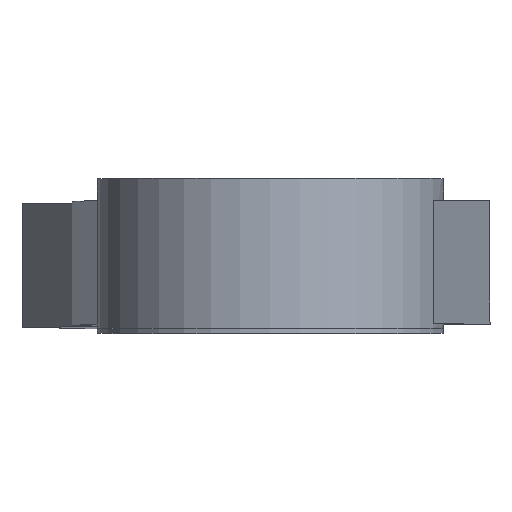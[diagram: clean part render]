
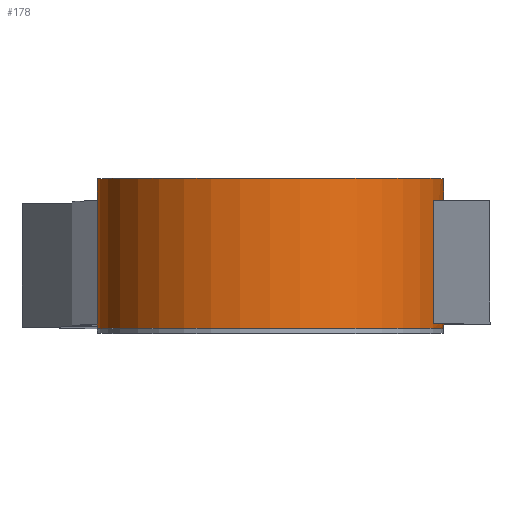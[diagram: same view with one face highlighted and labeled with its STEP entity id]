
A CAD part, top view. The second image highlights one B-rep face of the part: STEP entity #178.
In plain terms, the highlighted cylindrical face has radius 56 mm (diameter 112 mm), a partial arc.
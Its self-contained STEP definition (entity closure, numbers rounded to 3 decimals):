
#6 = VERTEX_POINT ( 'NONE', #1016 ) ;
#21 = CARTESIAN_POINT ( 'NONE',  ( -156., -78.5, 1570. ) ) ;
#54 = ORIENTED_EDGE ( 'NONE', *, *, #623, .T. ) ;
#73 = ORIENTED_EDGE ( 'NONE', *, *, #238, .T. ) ;
#79 = CIRCLE ( 'NONE', #652, 56. ) ;
#81 = VERTEX_POINT ( 'NONE', #983 ) ;
#86 = CIRCLE ( 'NONE', #662, 56. ) ;
#93 = CIRCLE ( 'NONE', #637, 56. ) ;
#94 = VECTOR ( 'NONE', #376, 1000. ) ;
#102 = LINE ( 'NONE', #383, #94 ) ;
#110 = EDGE_CURVE ( 'NONE', #765, #81, #1059, .T. ) ;
#122 = ORIENTED_EDGE ( 'NONE', *, *, #1050, .T. ) ;
#136 = EDGE_CURVE ( 'NONE', #311, #6, #223, .T. ) ;
#164 = ORIENTED_EDGE ( 'NONE', *, *, #955, .F. ) ;
#178 = ADVANCED_FACE ( 'NONE', ( #470 ), #504, .T. ) ;
#205 = DIRECTION ( 'NONE',  ( -1., 0., 0. ) ) ;
#210 = DIRECTION ( 'NONE',  ( 0., 1., 0. ) ) ;
#211 = CIRCLE ( 'NONE', #703, 56. ) ;
#213 = CARTESIAN_POINT ( 'NONE',  ( -100., -78.5, 1570. ) ) ;
#223 = LINE ( 'NONE', #929, #440 ) ;
#238 = EDGE_CURVE ( 'NONE', #781, #746, #707, .T. ) ;
#258 = CIRCLE ( 'NONE', #706, 56. ) ;
#289 = VECTOR ( 'NONE', #563, 1000. ) ;
#309 = DIRECTION ( 'NONE',  ( -1., 0., 0. ) ) ;
#311 = VERTEX_POINT ( 'NONE', #21 ) ;
#314 = DIRECTION ( 'NONE',  ( 0., -1., 0. ) ) ;
#317 = CARTESIAN_POINT ( 'NONE',  ( -100., -77., 1570. ) ) ;
#318 = LINE ( 'NONE', #567, #289 ) ;
#322 = DIRECTION ( 'NONE',  ( -1., 0., 0. ) ) ;
#324 = DIRECTION ( 'NONE',  ( 0., 1., 0. ) ) ;
#326 = CARTESIAN_POINT ( 'NONE',  ( -100., -37., 1570. ) ) ;
#357 = ORIENTED_EDGE ( 'NONE', *, *, #511, .T. ) ;
#371 = VECTOR ( 'NONE', #676, 1000. ) ;
#372 = LINE ( 'NONE', #691, #371 ) ;
#373 = LINE ( 'NONE', #673, #385 ) ;
#376 = DIRECTION ( 'NONE',  ( 0., 1., 0. ) ) ;
#377 = CARTESIAN_POINT ( 'NONE',  ( -155.973, -77., 1571.753 ) ) ;
#382 = VERTEX_POINT ( 'NONE', #786 ) ;
#383 = CARTESIAN_POINT ( 'NONE',  ( -156., -77., 1570. ) ) ;
#385 = VECTOR ( 'NONE', #699, 1000. ) ;
#396 = CARTESIAN_POINT ( 'NONE',  ( -155.973, -37., 1571.753 ) ) ;
#413 = CARTESIAN_POINT ( 'NONE',  ( -44., -37., 1570. ) ) ;
#440 = VECTOR ( 'NONE', #931, 1000. ) ;
#450 = VECTOR ( 'NONE', #994, 1000. ) ;
#470 = FACE_OUTER_BOUND ( 'NONE', #868, .T. ) ;
#472 = DIRECTION ( 'NONE',  ( -1., 0., 0. ) ) ;
#473 = DIRECTION ( 'NONE',  ( 0., -1., 0. ) ) ;
#474 = CARTESIAN_POINT ( 'NONE',  ( -100., -77., 1570. ) ) ;
#479 = CARTESIAN_POINT ( 'NONE',  ( -156., -37., 1570. ) ) ;
#481 = CARTESIAN_POINT ( 'NONE',  ( -44., -30., 1570. ) ) ;
#502 = CARTESIAN_POINT ( 'NONE',  ( -100., -30., 1570. ) ) ;
#504 = CYLINDRICAL_SURFACE ( 'NONE', #878, 56. ) ;
#506 = CARTESIAN_POINT ( 'NONE',  ( -44., -78.5, 1570. ) ) ;
#507 = DIRECTION ( 'NONE',  ( -1., 0., 0. ) ) ;
#511 = EDGE_CURVE ( 'NONE', #912, #991, #372, .T. ) ;
#514 = EDGE_CURVE ( 'NONE', #894, #781, #373, .T. ) ;
#517 = DIRECTION ( 'NONE',  ( 0., -1., 0. ) ) ;
#518 = DIRECTION ( 'NONE',  ( -1., 0., 0. ) ) ;
#519 = DIRECTION ( 'NONE',  ( 0., 1., 0. ) ) ;
#522 = CARTESIAN_POINT ( 'NONE',  ( -100., -37., 1570. ) ) ;
#524 = CARTESIAN_POINT ( 'NONE',  ( -47.298, -37., 1588.933 ) ) ;
#534 = CARTESIAN_POINT ( 'NONE',  ( -156., -30., 1570. ) ) ;
#563 = DIRECTION ( 'NONE',  ( 0., 1., 0. ) ) ;
#567 = CARTESIAN_POINT ( 'NONE',  ( -47.298, -77., 1588.933 ) ) ;
#581 = ORIENTED_EDGE ( 'NONE', *, *, #1005, .T. ) ;
#583 = ORIENTED_EDGE ( 'NONE', *, *, #710, .T. ) ;
#623 = EDGE_CURVE ( 'NONE', #382, #730, #318, .T. ) ;
#637 = AXIS2_PLACEMENT_3D ( 'NONE', #213, #210, #205 ) ;
#652 = AXIS2_PLACEMENT_3D ( 'NONE', #317, #314, #309 ) ;
#653 = ORIENTED_EDGE ( 'NONE', *, *, #110, .T. ) ;
#662 = AXIS2_PLACEMENT_3D ( 'NONE', #326, #324, #322 ) ;
#673 = CARTESIAN_POINT ( 'NONE',  ( -44., -77., 1570. ) ) ;
#676 = DIRECTION ( 'NONE',  ( 0., -1., 0. ) ) ;
#686 = ORIENTED_EDGE ( 'NONE', *, *, #1018, .T. ) ;
#691 = CARTESIAN_POINT ( 'NONE',  ( -155.973, -77., 1571.753 ) ) ;
#699 = DIRECTION ( 'NONE',  ( 0., 1., 0. ) ) ;
#703 = AXIS2_PLACEMENT_3D ( 'NONE', #474, #473, #472 ) ;
#706 = AXIS2_PLACEMENT_3D ( 'NONE', #522, #519, #518 ) ;
#707 = CIRCLE ( 'NONE', #962, 56. ) ;
#710 = EDGE_CURVE ( 'NONE', #730, #894, #258, .T. ) ;
#730 = VERTEX_POINT ( 'NONE', #524 ) ;
#746 = VERTEX_POINT ( 'NONE', #534 ) ;
#765 = VERTEX_POINT ( 'NONE', #506 ) ;
#781 = VERTEX_POINT ( 'NONE', #481 ) ;
#786 = CARTESIAN_POINT ( 'NONE',  ( -47.298, -77., 1588.933 ) ) ;
#812 = EDGE_CURVE ( 'NONE', #81, #382, #211, .T. ) ;
#816 = ORIENTED_EDGE ( 'NONE', *, *, #136, .F. ) ;
#832 = VERTEX_POINT ( 'NONE', #479 ) ;
#844 = CARTESIAN_POINT ( 'NONE',  ( -100., -77., 1570. ) ) ;
#854 = DIRECTION ( 'NONE',  ( 0., 1., 0. ) ) ;
#855 = DIRECTION ( 'NONE',  ( -1., 0., 0. ) ) ;
#868 = EDGE_LOOP ( 'NONE', ( #122, #653, #1048, #54, #583, #895, #73, #164, #581, #357, #686, #816 ) ) ;
#878 = AXIS2_PLACEMENT_3D ( 'NONE', #844, #854, #855 ) ;
#894 = VERTEX_POINT ( 'NONE', #413 ) ;
#895 = ORIENTED_EDGE ( 'NONE', *, *, #514, .T. ) ;
#912 = VERTEX_POINT ( 'NONE', #396 ) ;
#929 = CARTESIAN_POINT ( 'NONE',  ( -156., -77., 1570. ) ) ;
#931 = DIRECTION ( 'NONE',  ( 0., 1., 0. ) ) ;
#955 = EDGE_CURVE ( 'NONE', #832, #746, #102, .T. ) ;
#962 = AXIS2_PLACEMENT_3D ( 'NONE', #502, #517, #507 ) ;
#975 = CARTESIAN_POINT ( 'NONE',  ( -44., -77., 1570. ) ) ;
#983 = CARTESIAN_POINT ( 'NONE',  ( -44., -77., 1570. ) ) ;
#991 = VERTEX_POINT ( 'NONE', #377 ) ;
#994 = DIRECTION ( 'NONE',  ( 0., 1., 0. ) ) ;
#1005 = EDGE_CURVE ( 'NONE', #832, #912, #86, .T. ) ;
#1016 = CARTESIAN_POINT ( 'NONE',  ( -156., -77., 1570. ) ) ;
#1018 = EDGE_CURVE ( 'NONE', #991, #6, #79, .T. ) ;
#1048 = ORIENTED_EDGE ( 'NONE', *, *, #812, .T. ) ;
#1050 = EDGE_CURVE ( 'NONE', #311, #765, #93, .T. ) ;
#1059 = LINE ( 'NONE', #975, #450 ) ;
